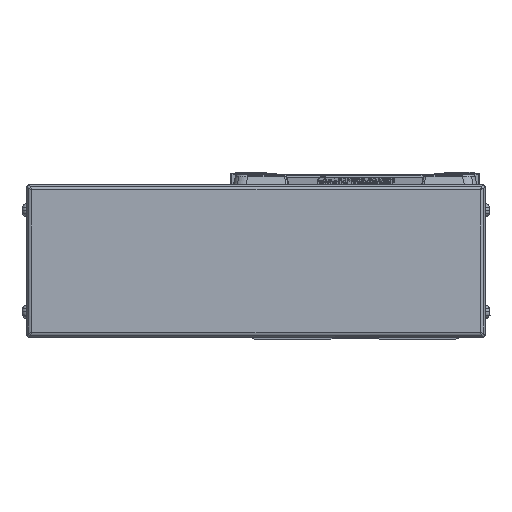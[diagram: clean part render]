
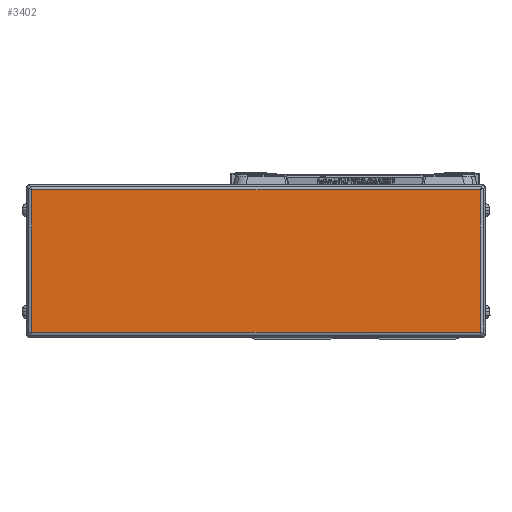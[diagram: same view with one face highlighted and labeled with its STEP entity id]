
A CAD part, left-side view. The second image highlights one B-rep face of the part: STEP entity #3402.
In plain terms, the highlighted planar face has unit normal (-1, 0, 0).
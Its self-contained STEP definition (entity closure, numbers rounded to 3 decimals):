
#3402=ADVANCED_FACE('',(#7891),#7892,.F.);
#7891=FACE_OUTER_BOUND('',#14107,.T.);
#7892=PLANE('',#14108);
#14107=EDGE_LOOP('',(#23927,#23928,#23929,#23930));
#14108=AXIS2_PLACEMENT_3D('',#23931,#23932,#23933);
#23927=ORIENTED_EDGE('',*,*,#38218,.T.);
#23928=ORIENTED_EDGE('',*,*,#37202,.T.);
#23929=ORIENTED_EDGE('',*,*,#35970,.T.);
#23930=ORIENTED_EDGE('',*,*,#37168,.T.);
#23931=CARTESIAN_POINT('',(-616.,39.,0.));
#23932=DIRECTION('',(1.0,0.,0.));
#23933=DIRECTION('',(0.,0.,1.0));
#35970=EDGE_CURVE('',#43353,#43351,#43354,.T.);
#37168=EDGE_CURVE('',#43351,#45341,#45343,.T.);
#37202=EDGE_CURVE('',#45391,#43353,#45392,.T.);
#38218=EDGE_CURVE('',#45341,#45391,#46955,.T.);
#43351=VERTEX_POINT('',#53598);
#43353=VERTEX_POINT('',#53600);
#43354=LINE('',#53601,#53602);
#45341=VERTEX_POINT('',#56248);
#45343=LINE('',#56250,#56251);
#45391=VERTEX_POINT('',#56316);
#45392=LINE('',#56317,#56318);
#46955=LINE('',#58466,#58467);
#53598=CARTESIAN_POINT('',(-616.,-49.2,-28.));
#53600=CARTESIAN_POINT('',(-616.0,127.2,-28.));
#53601=CARTESIAN_POINT('',(-616.0,39.,-28.));
#53602=VECTOR('',#65777,10.0);
#56248=CARTESIAN_POINT('',(-616.,-49.2,28.));
#56250=CARTESIAN_POINT('',(-616.,-49.2,0.));
#56251=VECTOR('',#67427,10.0);
#56316=CARTESIAN_POINT('',(-616.0,127.2,28.));
#56317=CARTESIAN_POINT('',(-616.0,127.2,0.));
#56318=VECTOR('',#67469,10.0);
#58466=CARTESIAN_POINT('',(-616.,39.,28.));
#58467=VECTOR('',#68799,10.0);
#65777=DIRECTION('',(0.,-1.0,0.));
#67427=DIRECTION('',(0.,0.,1.0));
#67469=DIRECTION('',(0.,0.,-1.0));
#68799=DIRECTION('',(0.,1.0,0.));
